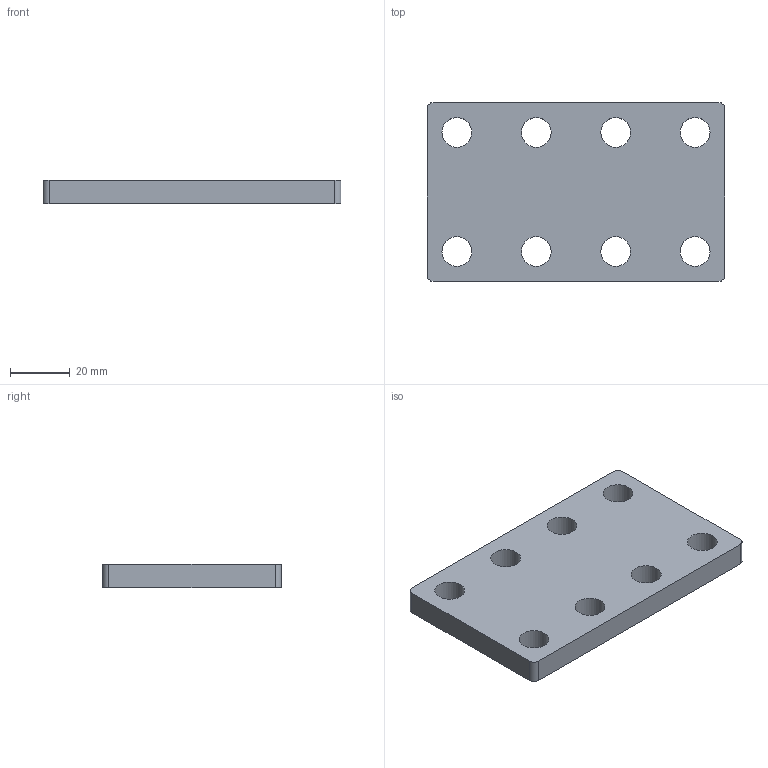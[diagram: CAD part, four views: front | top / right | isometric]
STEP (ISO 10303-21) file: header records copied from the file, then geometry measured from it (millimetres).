
FILE_DESCRIPTION(('FreeCAD Model'),'2;1');
FILE_NAME('Open CASCADE Shape Model','2026-10-30T23:44:35',('FreeCAD'),( 'FreeCAD'),'Open CASCADE STEP processor 7.6','FreeCAD','Unknown');
FILE_SCHEMA(('AUTOMOTIVE_DESIGN { 1 0 10303 214 1 1 1 1 }'));
Length unit declared in the file: millimetre
Products named in the file (1): Open CASCADE STEP translator 7.6 1
Bounding box: 100 x 60 x 8 mm (x, y, z)
Volume: 42946 mm3; surface area: 15279.6 mm2
Topology: 1 solids, 1 shells, 18 faces, 48 edges, 32 vertices
Faces by surface type: cylinder 12, plane 6
Full cylindrical faces by diameter (mm): 10 x8
Entity records: 618 total; most frequent: DIRECTION 110, CARTESIAN_POINT 99, ORIENTED_EDGE 96, EDGE_CURVE 48, AXIS2_PLACEMENT_3D 43, FACE_BOUND 34, EDGE_LOOP 34, VERTEX_POINT 32
